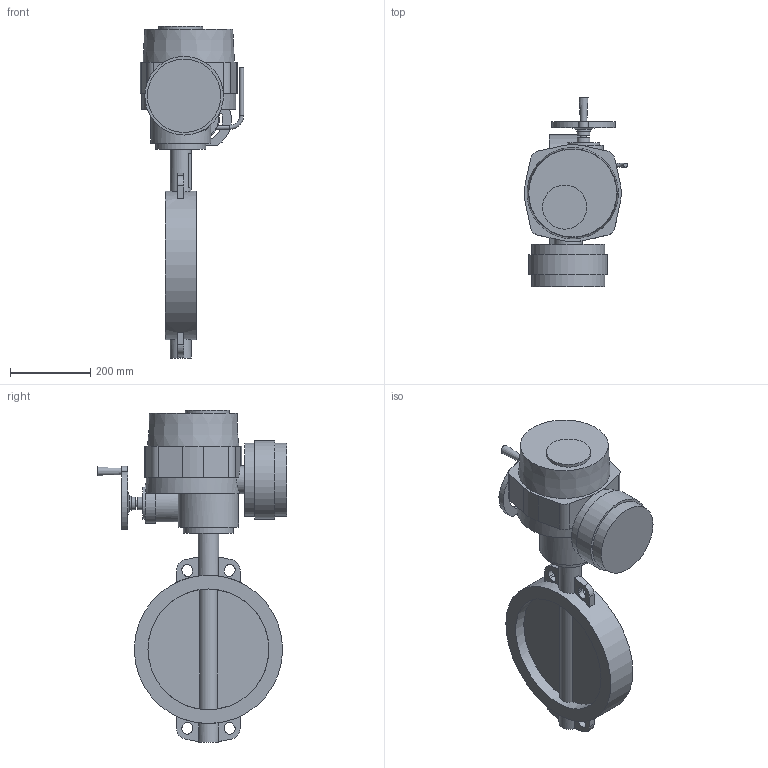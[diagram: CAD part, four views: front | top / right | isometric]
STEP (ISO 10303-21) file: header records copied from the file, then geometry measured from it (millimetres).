
FILE_DESCRIPTION(('STEP AP203'), '1');
FILE_NAME('青蜮铕 017W.ZS DN300+菹 QT.A050', '', ('UNSPECIFIED'), ('UNSPECIFIED'), 'ASCON STEP Converter 1.6', 'ASCON Math Kernel', '');
FILE_SCHEMA(('CONFIG_CONTROL_DESIGN'));
Length unit declared in the file: millimetre
Bounding box: 257.68 x 472 x 828 mm (x, y, z)
Volume: 14315401.2 mm3; surface area: 940067.6 mm2
Topology: 1 solids, 2 shells, 905 faces, 2625 edges, 1694 vertices
Faces by surface type: cylinder 673, plane 228, cone 3, torus 1
Full cylindrical faces by diameter (mm): 6.7 x8, 10 x2, 12 x4, 16 x1, 31.6 x1, 32 x2, 35 x2, 52 x2, 70 x2, 80 x1, 100 x1, 110 x1, 125 x1, 150 x1, 183 x2, 196 x1, 301.5 x2, 370 x1
Entity records: 39071 total; most frequent: CARTESIAN_POINT 6722, DIRECTION 5796, ORIENTED_EDGE 5096, EDGE_CURVE 2587, AXIS2_PLACEMENT_3D 2333, VERTEX_POINT 1694, CIRCLE 1427, LINE 1130
